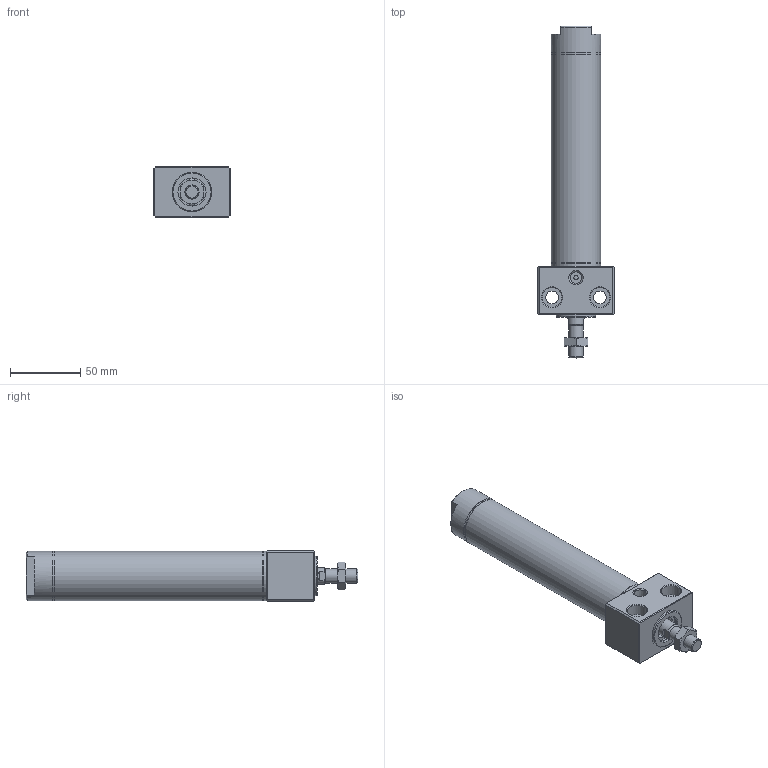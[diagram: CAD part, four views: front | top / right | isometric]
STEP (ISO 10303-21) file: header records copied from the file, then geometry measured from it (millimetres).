
FILE_DESCRIPTION((''),'2;1');
FILE_NAME('I:\3D電子目錄\氣缸\DBS\DBS\DBS30x100.stp','2007-10-08T08:43:20',('Administrator'),(''),'Autodesk Inventor 2008','Autodesk Inventor 2008','');
FILE_SCHEMA(('AUTOMOTIVE_DESIGN { 1 0 10303 214 1 1 1 1 }'));
Length unit declared in the file: millimetre
Products named in the file (1): DBS30x100
Bounding box: 54 x 235.6 x 36 mm (x, y, z)
Volume: 138866.1 mm3; surface area: 60843.5 mm2
Topology: 6 solids, 6 shells, 166 faces, 329 edges, 198 vertices
Faces by surface type: plane 75, cone 41, cylinder 35, bspline 12, torus 3
Full cylindrical faces by diameter (mm): 3 x1, 6.5 x1, 8 x1, 9 x1, 10 x2, 12 x1, 12.5 x1, 14 x1, 16 x1, 17 x2, 20 x2, 21 x3, 24 x2, 28 x3, 28.5 x2, 30 x1, 32.2 x6, 35 x4
Entity records: 4070 total; most frequent: CARTESIAN_POINT 931, DIRECTION 660, ORIENTED_EDGE 504, AXIS2_PLACEMENT_3D 289, EDGE_LOOP 278, EDGE_CURVE 252, VERTEX_POINT 192, FACE_OUTER_BOUND 166
